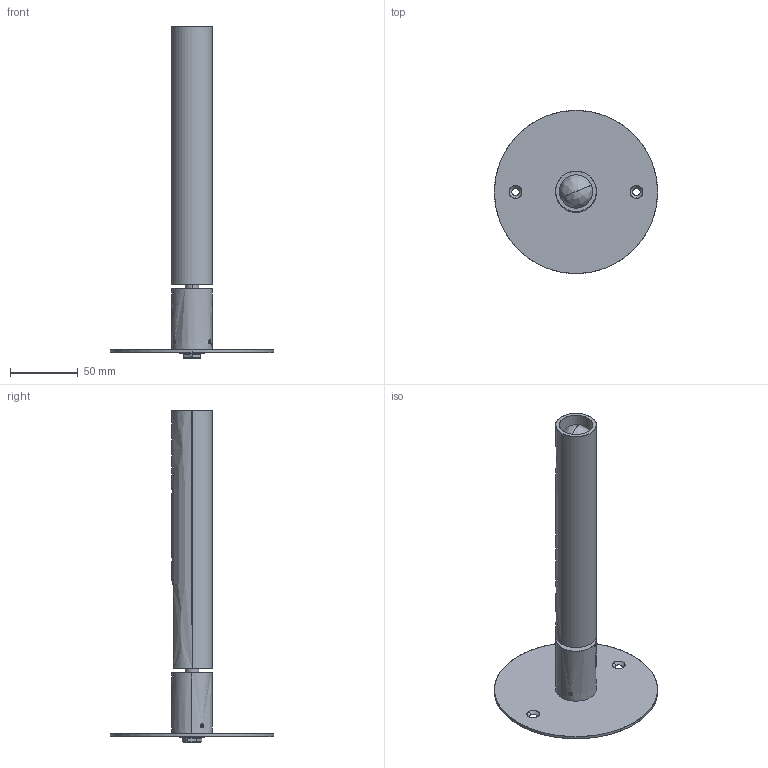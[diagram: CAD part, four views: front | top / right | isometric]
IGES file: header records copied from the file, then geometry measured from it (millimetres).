
Start section: SolidWorks IGES file using analytic representation for surfaces
Global section: file name: \\STORAGE\Tecnico Condiviso\15 PROGETTI SPECIALI\ARTICOLI VARI\APPLIQUE\SPOTOTTONELED-VENTURELLI\UFEGOX30XXXXLED-PER 3D.IGS; native system: SolidWorks 2019; preprocessor: SolidWorks 2019; author: tecnico3; date: 200127.144747; units: millimetre
Bounding box: 120 x 120 x 244.2 mm (x, y, z)
Surface area: 72600.6 mm2 (no closed solid volume)
Topology: 0 solids, 0 shells, 489 faces, 5124 edges, 5080 vertices
Faces by surface type: revolution 287, bspline 202
